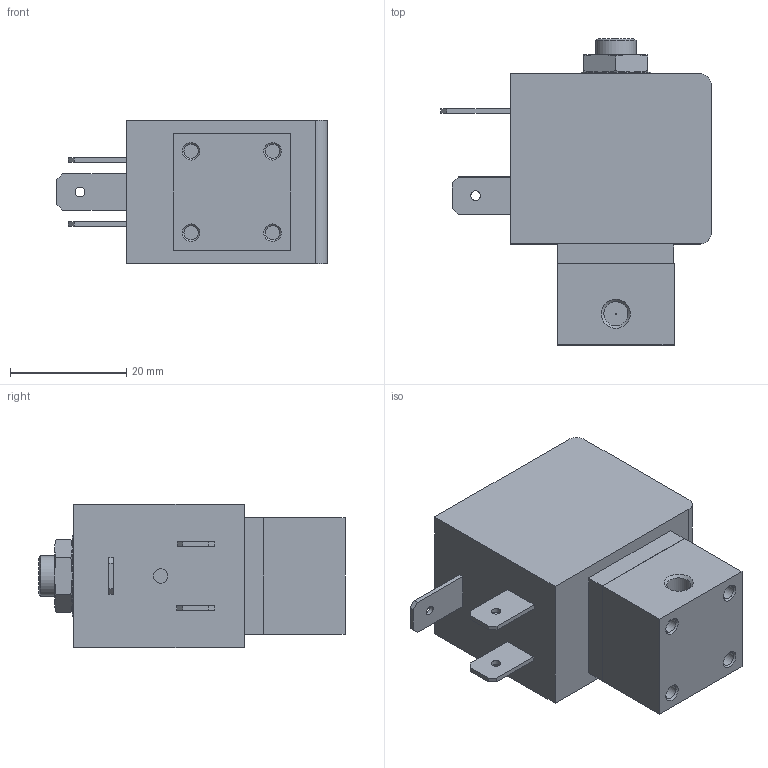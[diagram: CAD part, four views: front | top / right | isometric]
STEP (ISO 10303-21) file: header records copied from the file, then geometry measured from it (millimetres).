
FILE_DESCRIPTION(/* description */ ('STEP AP214'),/* implementation_level */ '2;1');
FILE_NAME(/* name */ '7012-00380922Hubankerventil_3_2_Wege_direktwirkend',/* time_stamp */ '2024-09-09T11:46:32+02:00',/* author */ ('License CC BY-ND 4.0'),/* organization */ ('CADENAS'),/* preprocessor_version */ 'ST-DEVELOPER v19.3',/* originating_system */ 'PARTsolutions',/* authorisation */ ' ');
FILE_SCHEMA (('AUTOMOTIVE_DESIGN {1 0 10303 214 3 1 1}'));
Length unit declared in the file: millimetre
Products named in the file (1): 7012-00380922Hubankerventil 3/2 Wege direktwirkend
Bounding box: 46.5 x 52.6 x 24.6 mm (x, y, z)
Volume: 32024.5 mm3; surface area: 7615.9 mm2
Topology: 1 solids, 1 shells, 113 faces, 264 edges, 170 vertices
Faces by surface type: plane 75, cylinder 19, cone 19
Full cylindrical faces by diameter (mm): 0.2 x1, 1.65 x3, 2.45 x1, 2.459 x4, 4.134 x2, 7 x1, 9 x1
Entity records: 3938 total; most frequent: CARTESIAN_POINT 598, DIRECTION 504, ORIENTED_EDGE 486, EDGE_CURVE 243, AXIS2_PLACEMENT_3D 171, VERTEX_POINT 169, LINE 162, VECTOR 162
